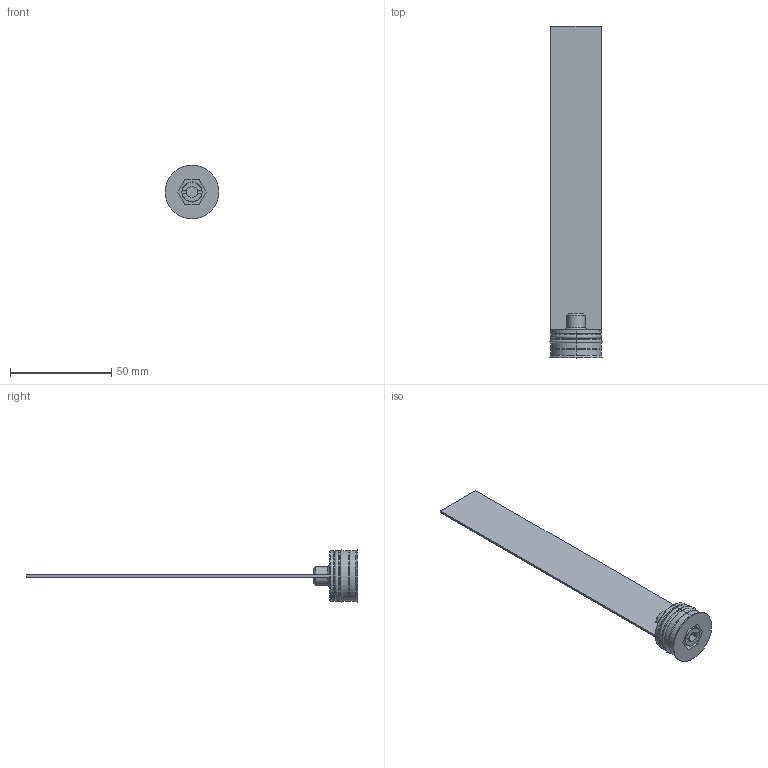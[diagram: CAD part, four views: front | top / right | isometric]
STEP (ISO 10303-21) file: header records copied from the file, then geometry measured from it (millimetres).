
FILE_DESCRIPTION (( 'STEP AP203' ), '1' );
FILE_NAME ('RL-25Fx150.STEP', '2015-12-04T07:17:06', ( 'Balzi' ), ( '' ), 'SwSTEP 2.0', 'SolidWorks 2015', '' );
FILE_SCHEMA (( 'CONFIG_CONTROL_DESIGN' ));
Length unit declared in the file: millimetre
Products named in the file (1): RL-25Fx150
Bounding box: 26.5 x 164 x 26.5 mm (x, y, z)
Volume: 10674.3 mm3; surface area: 10700.3 mm2
Topology: 1 solids, 1 shells, 75 faces, 177 edges, 109 vertices
Faces by surface type: plane 31, cone 19, cylinder 17, torus 8
Entity records: 2245 total; most frequent: CARTESIAN_POINT 412, DIRECTION 386, ORIENTED_EDGE 354, EDGE_CURVE 177, AXIS2_PLACEMENT_3D 147, VERTEX_POINT 109, LINE 92, VECTOR 92
